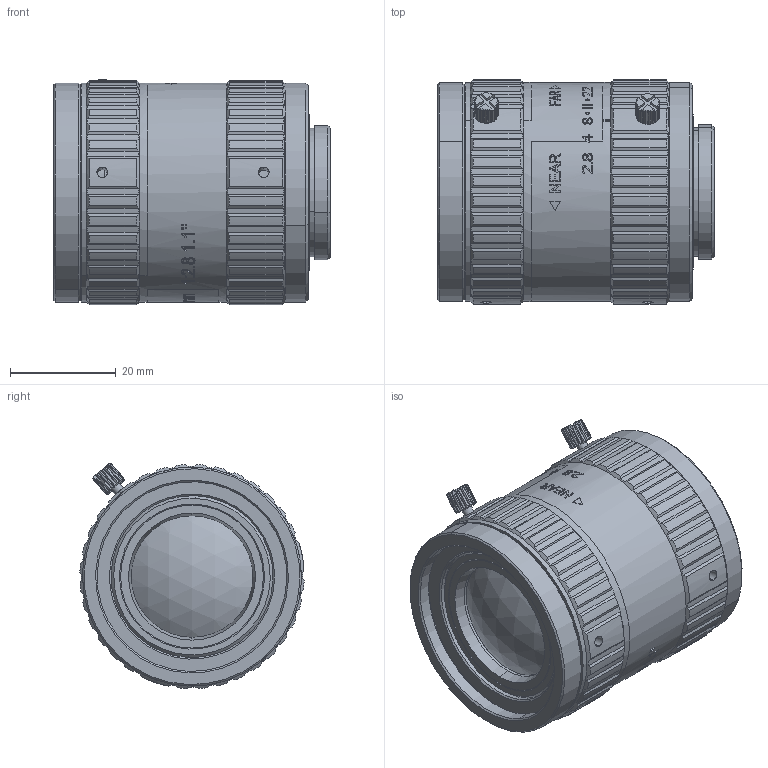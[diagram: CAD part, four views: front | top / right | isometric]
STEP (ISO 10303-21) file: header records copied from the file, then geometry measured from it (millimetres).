
FILE_DESCRIPTION((''),'2;1');
FILE_NAME('50MM_1_1INCH_ASM','2021-08-07T08:44:42',('Administrator'),(''),'CREO PARAMETRIC BY PTC INC, 2020053','CREO PARAMETRIC BY PTC INC, 2020053','');
FILE_SCHEMA(('CONFIG_CONTROL_DESIGN'));
Length unit declared in the file: millimetre
Products named in the file (2): _50MM_1_1INCH; 50MM_1_1INCH_ASM
Assembly tree (1 placements, depth 2):
  50MM_1_1INCH_ASM
    _50MM_1_1INCH
Bounding box: 52.33 x 42.37 x 42.59 mm (x, y, z)
Volume: 1843.7 mm3; surface area: 33723 mm2
Topology: 4 solids, 9 shells, 1493 faces, 4113 edges, 2725 vertices
Faces by surface type: plane 637, cylinder 459, bspline 301, cone 66, extrusion 27, sphere 3
Entity records: 63963 total; most frequent: CARTESIAN_POINT 28150, ORIENTED_EDGE 8180, DIRECTION 6329, EDGE_CURVE 4113, VERTEX_POINT 2725, AXIS2_PLACEMENT_3D 2336, VECTOR 1657, EDGE_LOOP 1635
